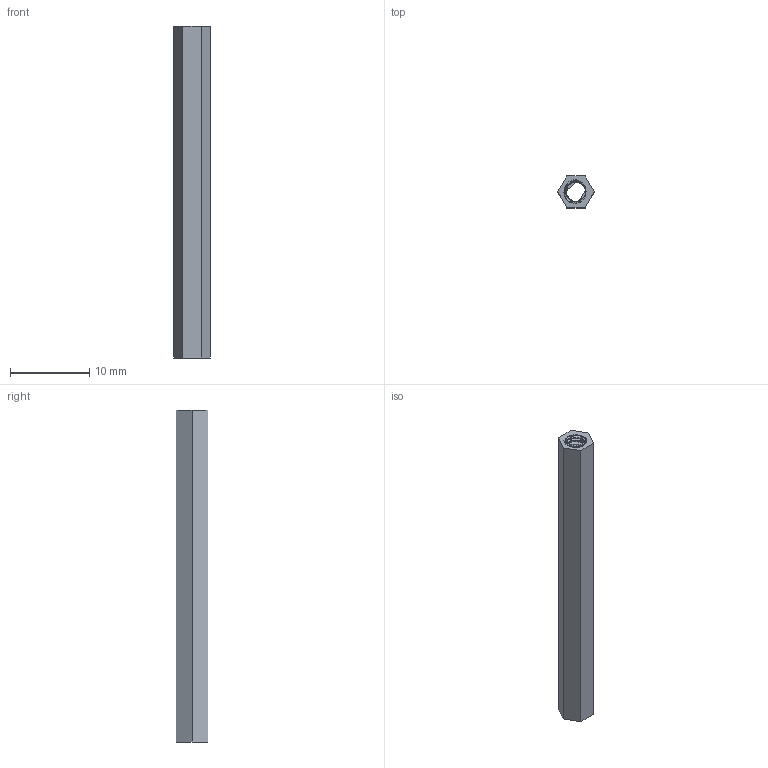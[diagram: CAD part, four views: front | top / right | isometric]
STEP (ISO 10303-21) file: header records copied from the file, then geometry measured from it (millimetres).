
FILE_DESCRIPTION (( 'STEP AP203' ), '1' );
FILE_NAME ('09_Tru_luc_giac_M3_42.STEP', '2026-11-14T10:03:04', ( '' ), ( '' ), 'SwSTEP 2.0', 'SolidWorks 2026', '' );
FILE_SCHEMA (( 'CONFIG_CONTROL_DESIGN' ));
Length unit declared in the file: metre
Products named in the file (1): 09_Tru_luc_giac_M3_42
Bounding box: 4.62 x 4 x 42 mm (x, y, z)
Volume: 333.2 mm3; surface area: 1188.6 mm2
Topology: 1 solids, 1 shells, 181 faces, 533 edges, 354 vertices
Faces by surface type: cylinder 169, plane 9, bspline 3
Entity records: 15058 total; most frequent: CARTESIAN_POINT 11180, ORIENTED_EDGE 1066, DIRECTION 552, EDGE_CURVE 533, VERTEX_POINT 354, LINE 190, VECTOR 190, EDGE_LOOP 183
